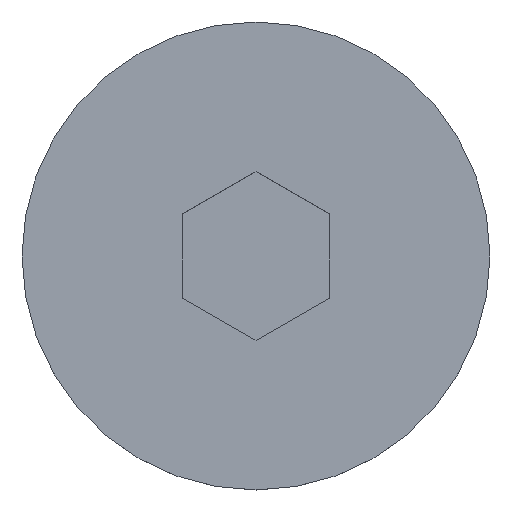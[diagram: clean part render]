
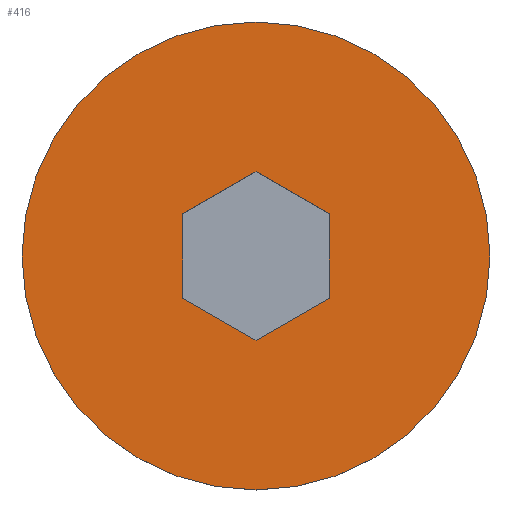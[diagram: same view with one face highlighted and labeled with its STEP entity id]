
A CAD part, top view. The second image highlights one B-rep face of the part: STEP entity #416.
In plain terms, the highlighted planar face has unit normal (0, 0, 1).
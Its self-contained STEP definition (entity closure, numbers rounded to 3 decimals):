
#5 = EDGE_LOOP ( 'NONE', ( #79, #76, #296, #31, #410, #349 ) ) ;
#6 = VECTOR ( 'NONE', #429, 1000. ) ;
#8 = EDGE_CURVE ( 'NONE', #354, #212, #163, .T. ) ;
#11 = VECTOR ( 'NONE', #305, 1000. ) ;
#15 = CARTESIAN_POINT ( 'NONE',  ( 0., -3.464, 5.22 ) ) ;
#19 = CARTESIAN_POINT ( 'NONE',  ( 3., 1.732, 5.22 ) ) ;
#29 = CARTESIAN_POINT ( 'NONE',  ( -3., 1.732, 5.22 ) ) ;
#30 = DIRECTION ( 'NONE',  ( -0.866, 0.5, 0. ) ) ;
#31 = ORIENTED_EDGE ( 'NONE', *, *, #78, .F. ) ;
#45 = AXIS2_PLACEMENT_3D ( 'NONE', #110, #377, #413 ) ;
#68 = VERTEX_POINT ( 'NONE', #391 ) ;
#74 = VECTOR ( 'NONE', #394, 1000. ) ;
#76 = ORIENTED_EDGE ( 'NONE', *, *, #352, .F. ) ;
#77 = LINE ( 'NONE', #29, #273 ) ;
#78 = EDGE_CURVE ( 'NONE', #448, #354, #259, .T. ) ;
#79 = ORIENTED_EDGE ( 'NONE', *, *, #315, .F. ) ;
#80 = CARTESIAN_POINT ( 'NONE',  ( -3., -1.732, 5.22 ) ) ;
#95 = AXIS2_PLACEMENT_3D ( 'NONE', #408, #180, #414 ) ;
#101 = CARTESIAN_POINT ( 'NONE',  ( 3., 1.732, 5.22 ) ) ;
#110 = CARTESIAN_POINT ( 'NONE',  ( 0., 0., 5.22 ) ) ;
#125 = CARTESIAN_POINT ( 'NONE',  ( -3., -1.732, 5.22 ) ) ;
#131 = LINE ( 'NONE', #101, #167 ) ;
#137 = DIRECTION ( 'NONE',  ( 0., -1., 0. ) ) ;
#147 = FACE_BOUND ( 'NONE', #5, .T. ) ;
#152 = DIRECTION ( 'NONE',  ( 0.866, -0.5, 0. ) ) ;
#163 = LINE ( 'NONE', #293, #74 ) ;
#164 = EDGE_CURVE ( 'NONE', #370, #267, #223, .T. ) ;
#167 = VECTOR ( 'NONE', #30, 1000. ) ;
#173 = CARTESIAN_POINT ( 'NONE',  ( 0., 3.464, 5.22 ) ) ;
#180 = DIRECTION ( 'NONE',  ( 0., 0., -1. ) ) ;
#192 = CARTESIAN_POINT ( 'NONE',  ( 3., -1.732, 5.22 ) ) ;
#195 = FACE_OUTER_BOUND ( 'NONE', #275, .T. ) ;
#199 = DIRECTION ( 'NONE',  ( 0., 0., 1. ) ) ;
#212 = VERTEX_POINT ( 'NONE', #192 ) ;
#223 = CIRCLE ( 'NONE', #45, 9.61 ) ;
#224 = EDGE_CURVE ( 'NONE', #267, #370, #324, .T. ) ;
#234 = PLANE ( 'NONE',  #342 ) ;
#256 = ORIENTED_EDGE ( 'NONE', *, *, #164, .F. ) ;
#259 = LINE ( 'NONE', #125, #323 ) ;
#260 = CARTESIAN_POINT ( 'NONE',  ( 3., -1.732, 5.22 ) ) ;
#267 = VERTEX_POINT ( 'NONE', #339 ) ;
#273 = VECTOR ( 'NONE', #137, 1000. ) ;
#275 = EDGE_LOOP ( 'NONE', ( #351, #256 ) ) ;
#287 = VERTEX_POINT ( 'NONE', #405 ) ;
#290 = LINE ( 'NONE', #260, #6 ) ;
#293 = CARTESIAN_POINT ( 'NONE',  ( 0., -3.464, 5.22 ) ) ;
#296 = ORIENTED_EDGE ( 'NONE', *, *, #8, .F. ) ;
#298 = EDGE_CURVE ( 'NONE', #287, #68, #310, .T. ) ;
#305 = DIRECTION ( 'NONE',  ( -0.866, -0.5, 0. ) ) ;
#310 = LINE ( 'NONE', #173, #11 ) ;
#311 = EDGE_CURVE ( 'NONE', #68, #448, #77, .T. ) ;
#315 = EDGE_CURVE ( 'NONE', #426, #287, #131, .T. ) ;
#323 = VECTOR ( 'NONE', #152, 1000. ) ;
#324 = CIRCLE ( 'NONE', #95, 9.61 ) ;
#339 = CARTESIAN_POINT ( 'NONE',  ( -9.61, 0., 5.22 ) ) ;
#342 = AXIS2_PLACEMENT_3D ( 'NONE', #358, #199, #433 ) ;
#349 = ORIENTED_EDGE ( 'NONE', *, *, #298, .F. ) ;
#351 = ORIENTED_EDGE ( 'NONE', *, *, #224, .F. ) ;
#352 = EDGE_CURVE ( 'NONE', #212, #426, #290, .T. ) ;
#354 = VERTEX_POINT ( 'NONE', #15 ) ;
#358 = CARTESIAN_POINT ( 'NONE',  ( -9.61, 0., 5.22 ) ) ;
#361 = CARTESIAN_POINT ( 'NONE',  ( 9.61, 0., 5.22 ) ) ;
#370 = VERTEX_POINT ( 'NONE', #361 ) ;
#377 = DIRECTION ( 'NONE',  ( 0., 0., -1. ) ) ;
#391 = CARTESIAN_POINT ( 'NONE',  ( -3., 1.732, 5.22 ) ) ;
#394 = DIRECTION ( 'NONE',  ( 0.866, 0.5, 0. ) ) ;
#405 = CARTESIAN_POINT ( 'NONE',  ( 0., 3.464, 5.22 ) ) ;
#408 = CARTESIAN_POINT ( 'NONE',  ( 0., 0., 5.22 ) ) ;
#410 = ORIENTED_EDGE ( 'NONE', *, *, #311, .F. ) ;
#413 = DIRECTION ( 'NONE',  ( -1., 0., 0. ) ) ;
#414 = DIRECTION ( 'NONE',  ( -1., 0., 0. ) ) ;
#416 = ADVANCED_FACE ( 'NONE', ( #147, #195 ), #234, .T. ) ;
#426 = VERTEX_POINT ( 'NONE', #19 ) ;
#429 = DIRECTION ( 'NONE',  ( 0., 1., 0. ) ) ;
#433 = DIRECTION ( 'NONE',  ( 1., 0., 0. ) ) ;
#448 = VERTEX_POINT ( 'NONE', #80 ) ;
